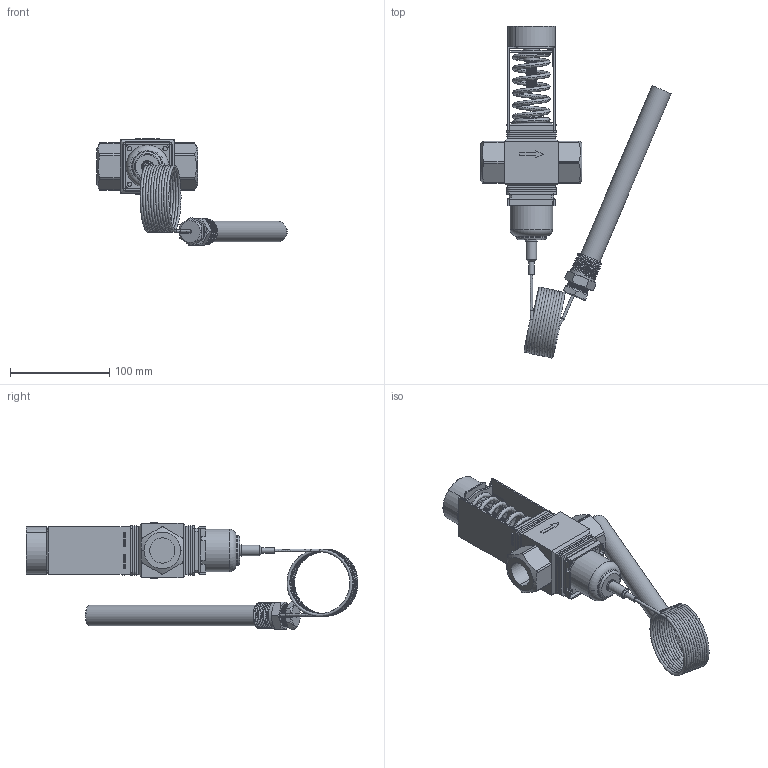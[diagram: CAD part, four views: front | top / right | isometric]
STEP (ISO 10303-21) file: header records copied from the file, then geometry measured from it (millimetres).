
FILE_DESCRIPTION(/* description */ (''),/* implementation_level */ '2;1');
FILE_NAME(/* name */ 'YWV-1ASS.step',/* time_stamp */ '2026-09-04T15:19:14+08:00',/* author */ (''),/* organization */ (''),/* preprocessor_version */ '',/* originating_system */ '',/* authorisation */ '');
FILE_SCHEMA (('AUTOMOTIVE_DESIGN { 1 0 10303 214 3 1 1 1 }'));
Length unit declared in the file: millimetre
Products named in the file (30): 21; 20; 19; 18; 28; 27; 26; 24; 23; 16; 15; 31; 30; 29; 13; 12; 11; 10; 9; 8; 7; 6; 5; 4; 3; 2; 25; 17; 14; 1
Assembly tree (34 placements, depth 4):
  1
    2
    3
    4
    5
    6
    7
    8
    9
    10
    11
    12
    13
    14
      15
      16
      17
        18  x2
        19
        20
        21
      23
      24
    25
      26
      27
      28
    29
    30  x2
    31  x4
Bounding box: 192.13 x 335 x 107.72 mm (x, y, z)
Volume: 360832.1 mm3; surface area: 220763.7 mm2
Topology: 49 solids, 50 shells, 1314 faces, 3226 edges, 2072 vertices
Faces by surface type: plane 541, cylinder 494, torus 97, cone 86, bspline 82, sphere 14
Full cylindrical faces by diameter (mm): 2 x1, 2.7 x1, 5.5 x1, 8 x1, 10.5 x1, 14.5 x1, 16 x4, 18 x1, 19 x1, 19.3 x1, 20.8 x1, 21 x9, 22 x1, 26.44 x1, 30 x1, 39 x1, 43 x1
Entity records: 70216 total; most frequent: CARTESIAN_POINT 46076, ORIENTED_EDGE 4940, DIRECTION 4633, EDGE_CURVE 2470, AXIS2_PLACEMENT_3D 1670, VERTEX_POINT 1608, LINE 1293, VECTOR 1293
